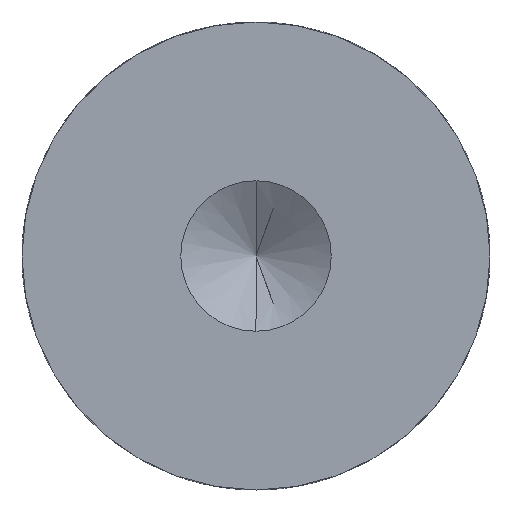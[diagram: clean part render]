
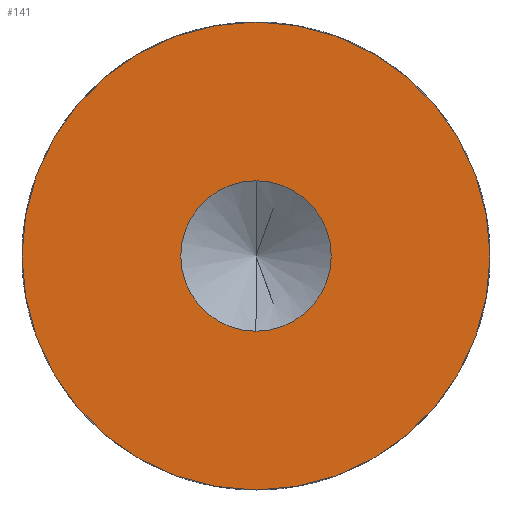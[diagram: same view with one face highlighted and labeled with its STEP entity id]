
A CAD part, left-side view. The second image highlights one B-rep face of the part: STEP entity #141.
In plain terms, the highlighted planar face has unit normal (-1, 0, 0).
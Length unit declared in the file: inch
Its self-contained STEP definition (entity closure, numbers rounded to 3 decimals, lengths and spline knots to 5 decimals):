
#14 = CIRCLE ( 'NONE', #341, 0.1005 ) ;
#65 = EDGE_CURVE ( 'NONE', #532, #654, #745, .T. ) ;
#71 = CIRCLE ( 'NONE', #463, 0.3125 ) ;
#112 = CARTESIAN_POINT ( 'NONE',  ( -0.593, 0., 0. ) ) ;
#136 = CARTESIAN_POINT ( 'NONE',  ( -0.593, 0., 0. ) ) ;
#139 = DIRECTION ( 'NONE',  ( -1., 0., 0. ) ) ;
#141 = ADVANCED_FACE ( 'NONE', ( #286, #604 ), #730, .F. ) ;
#144 = DIRECTION ( 'NONE',  ( 0., -1., 0. ) ) ;
#165 = CARTESIAN_POINT ( 'NONE',  ( -0.593, 0., 0. ) ) ;
#177 = AXIS2_PLACEMENT_3D ( 'NONE', #165, #179, #217 ) ;
#179 = DIRECTION ( 'NONE',  ( -1., 0., 0. ) ) ;
#184 = DIRECTION ( 'NONE',  ( -1., 0., 0. ) ) ;
#203 = DIRECTION ( 'NONE',  ( 0., -1., 0. ) ) ;
#217 = DIRECTION ( 'NONE',  ( 0., 0., 1. ) ) ;
#239 = ORIENTED_EDGE ( 'NONE', *, *, #65, .F. ) ;
#240 = EDGE_CURVE ( 'NONE', #438, #298, #830, .T. ) ;
#278 = EDGE_CURVE ( 'NONE', #654, #532, #14, .T. ) ;
#286 = FACE_BOUND ( 'NONE', #452, .T. ) ;
#298 = VERTEX_POINT ( 'NONE', #744 ) ;
#341 = AXIS2_PLACEMENT_3D ( 'NONE', #687, #686, #847 ) ;
#347 = AXIS2_PLACEMENT_3D ( 'NONE', #136, #139, #144 ) ;
#410 = CARTESIAN_POINT ( 'NONE',  ( -0.593, 0.3125, 0. ) ) ;
#438 = VERTEX_POINT ( 'NONE', #410 ) ;
#443 = CARTESIAN_POINT ( 'NONE',  ( -0.593, 0., 0.1005 ) ) ;
#451 = ORIENTED_EDGE ( 'NONE', *, *, #240, .T. ) ;
#452 = EDGE_LOOP ( 'NONE', ( #517, #239 ) ) ;
#463 = AXIS2_PLACEMENT_3D ( 'NONE', #112, #184, #203 ) ;
#466 = EDGE_LOOP ( 'NONE', ( #539, #451 ) ) ;
#517 = ORIENTED_EDGE ( 'NONE', *, *, #278, .F. ) ;
#532 = VERTEX_POINT ( 'NONE', #867 ) ;
#539 = ORIENTED_EDGE ( 'NONE', *, *, #700, .T. ) ;
#604 = FACE_OUTER_BOUND ( 'NONE', #466, .T. ) ;
#654 = VERTEX_POINT ( 'NONE', #443 ) ;
#686 = DIRECTION ( 'NONE',  ( -1., 0., 0. ) ) ;
#687 = CARTESIAN_POINT ( 'NONE',  ( -0.593, 0., 0. ) ) ;
#700 = EDGE_CURVE ( 'NONE', #298, #438, #71, .T. ) ;
#726 = CARTESIAN_POINT ( 'NONE',  ( -0.593, 0., 0. ) ) ;
#730 = PLANE ( 'NONE',  #822 ) ;
#734 = DIRECTION ( 'NONE',  ( 1., 0., 0. ) ) ;
#738 = DIRECTION ( 'NONE',  ( 0., 1., 0. ) ) ;
#744 = CARTESIAN_POINT ( 'NONE',  ( -0.593, -0.3125, 0. ) ) ;
#745 = CIRCLE ( 'NONE', #177, 0.1005 ) ;
#822 = AXIS2_PLACEMENT_3D ( 'NONE', #726, #734, #738 ) ;
#830 = CIRCLE ( 'NONE', #347, 0.3125 ) ;
#847 = DIRECTION ( 'NONE',  ( 0., 0., 1. ) ) ;
#867 = CARTESIAN_POINT ( 'NONE',  ( -0.593, 0., -0.1005 ) ) ;
